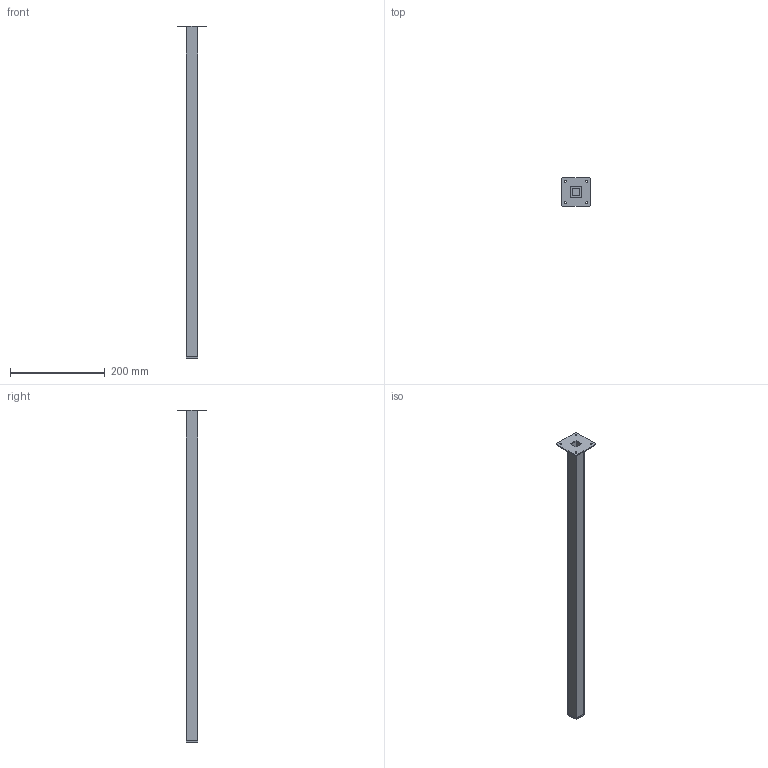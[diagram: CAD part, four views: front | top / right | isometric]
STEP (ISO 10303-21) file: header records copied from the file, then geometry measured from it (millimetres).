
FILE_DESCRIPTION( ( '' ), '1' );
FILE_NAME( 'D:/temp/hettich_stp/hettich/6.5_furniture_legs/table_legs/16864.stp', '2013-02-26T12:27:18', ( '' ), ( '' ), ' ', ' ', ' ' );
FILE_SCHEMA( ( 'automotive_design' ) );
Length unit declared in the file: millimetre
Products named in the file (1): 1
Bounding box: 60 x 60 x 700 mm (x, y, z)
Volume: 72230.4 mm3; surface area: 136598.9 mm2
Topology: 1 solids, 1 shells, 43 faces, 108 edges, 72 vertices
Faces by surface type: plane 31, cylinder 12
Entity records: 2570 total; most frequent: STYLED_ITEM 224, PRESENTATION_STYLE_ASSIGNMENT 224, CARTESIAN_POINT 224, COLOUR_RGB 224, DIRECTION 220, ORIENTED_EDGE 216, EDGE_CURVE 108, CURVE_STYLE 108
